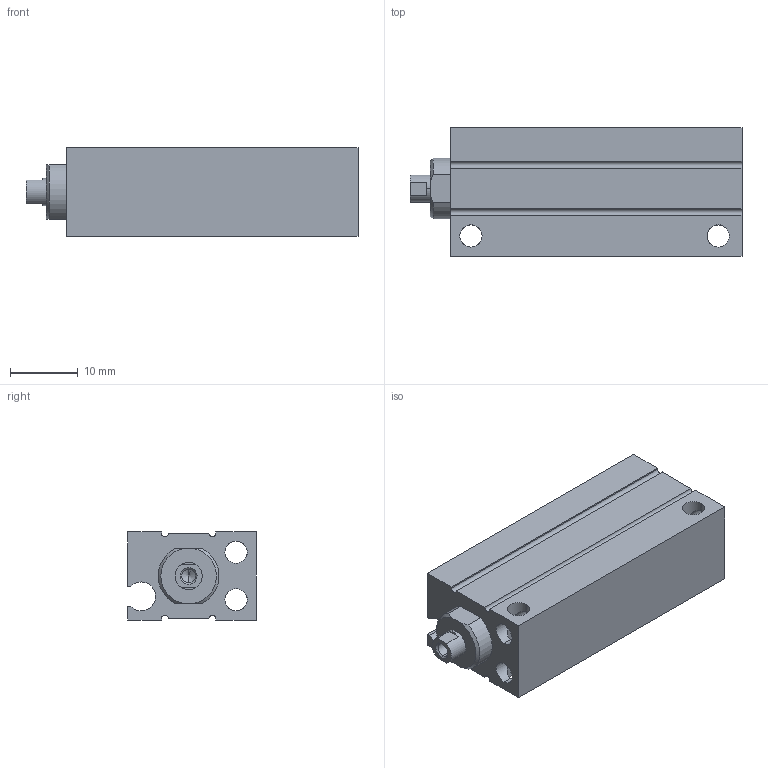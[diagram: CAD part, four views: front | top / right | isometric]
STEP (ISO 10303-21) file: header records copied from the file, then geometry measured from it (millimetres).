
FILE_DESCRIPTION (( 'STEP AP203' ), '1' );
FILE_NAME ('CLJB6-30.STEP', '2020-07-30T18:43:59', ( '' ), ( '' ), 'SwSTEP 2.0', 'SolidWorks 2019', '' );
FILE_SCHEMA (( 'CONFIG_CONTROL_DESIGN' ));
Length unit declared in the file: millimetre
Products named in the file (1): CLJB6-30
Bounding box: 49 x 19 x 13 mm (x, y, z)
Volume: 8627.9 mm3; surface area: 6060.3 mm2
Topology: 2 solids, 2 shells, 92 faces, 240 edges, 145 vertices
Faces by surface type: cylinder 49, plane 29, cone 14
Entity records: 2863 total; most frequent: CARTESIAN_POINT 580, ORIENTED_EDGE 468, DIRECTION 462, EDGE_CURVE 234, AXIS2_PLACEMENT_3D 171, VERTEX_POINT 145, VECTOR 120, LINE 120
